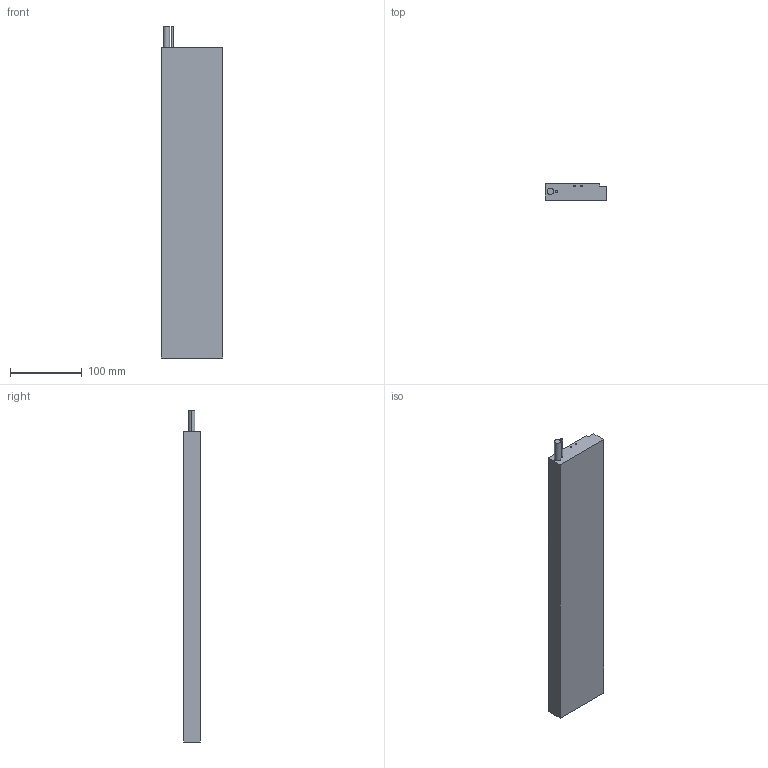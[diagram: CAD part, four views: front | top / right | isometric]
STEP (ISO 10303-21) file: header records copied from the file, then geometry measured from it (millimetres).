
FILE_DESCRIPTION (( 'STEP AP203' ), '1' );
FILE_NAME ('LMSA24.STEP', '2016-05-13T05:58:45', ( '' ), ( '' ), 'SwSTEP 2.0', 'SolidWorks 2015', '' );
FILE_SCHEMA (( 'CONFIG_CONTROL_DESIGN' ));
Length unit declared in the file: millimetre
Products named in the file (1): LMSA24
Bounding box: 86 x 23.7 x 463 mm (x, y, z)
Volume: 865015.4 mm3; surface area: 101208.6 mm2
Topology: 1 solids, 1 shells, 120 faces, 296 edges, 154 vertices
Faces by surface type: cylinder 56, cone 52, plane 12
Entity records: 3229 total; most frequent: DIRECTION 598, CARTESIAN_POINT 519, ORIENTED_EDGE 488, EDGE_CURVE 244, AXIS2_PLACEMENT_3D 233, VERTEX_POINT 154, EDGE_LOOP 148, VECTOR 132
